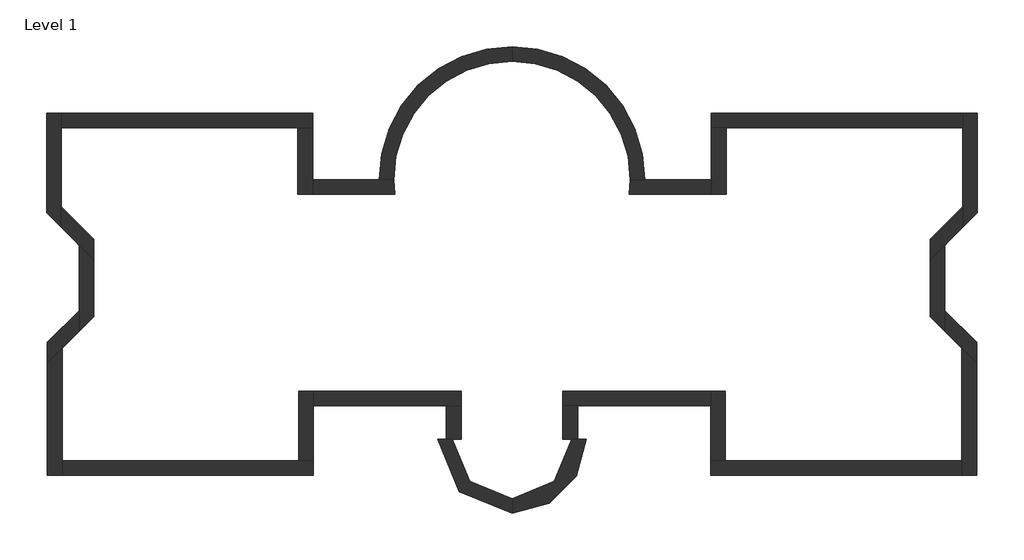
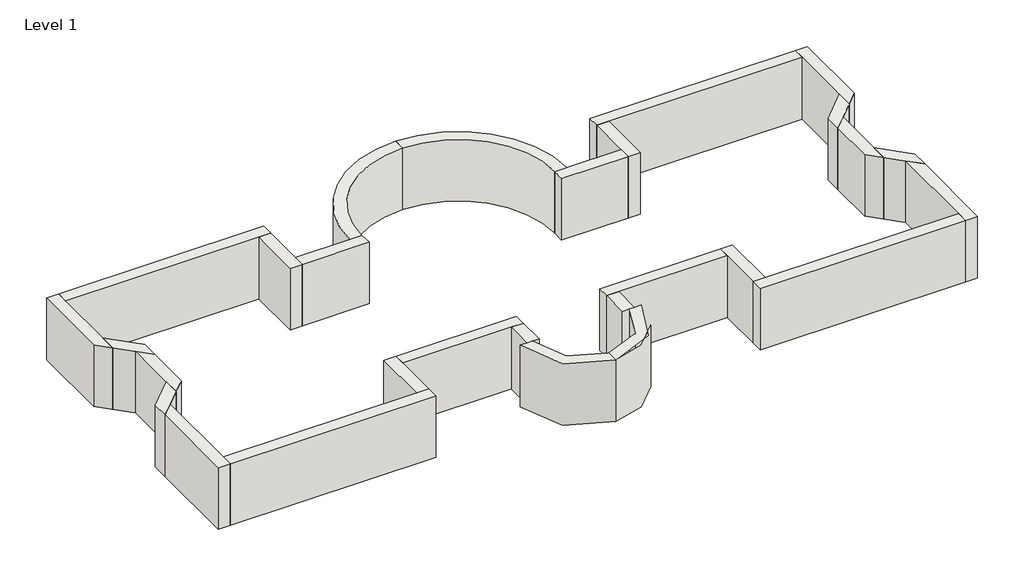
# One storey: 28 walls.
"""IFC4 building model written with IfcOpenShell, lengths in millimetres."""

from ifc_helpers import new_model, si_unit, point, frame, frame_2d, origin, origin_with_axes, place, context, project, spatial, polyline, circle_curve, trimmed, segment, composite_curve, outline, extrude, faceted_brep, element, save
from ifc_brep_helpers import plane_surface, cylinder_surface, revolved_surface, advanced_brep

model = new_model("IFC4")

# Units and contexts
model_context = context("Model", 3, world=origin())
ifc_project = project(units=[si_unit("LENGTHUNIT", "METRE", prefix="MILLI")], contexts=[model_context])

# Site, building, storey
site = spatial("IfcSite", under=ifc_project)
building = spatial("IfcBuilding", under=site)
storey = spatial("IfcBuildingStorey", under=building, Name="Level 1", Elevation=0.0)

# Walls
placement = place(None, origin())
element("IfcWall", 1, ObjectType="Exterior - CMU Insulated", at=placement, inside=storey, context=model_context, shape_type="Brep", body=[
    faceted_brep([(-20580.7092451, 2236.0480942, 0.0), (-20580.7092451, 3187.955243, 0.0), (-20580.7092451, 6808.0480942, 0.0), (-20580.7092451, 7481.1480942, 0.0), (-20580.7092451, 7481.1480942, 3657.6), (-20580.7092451, 6808.0480942, 3657.6), (-20580.7092451, 3187.955243, 3657.6), (-20580.7092451, 2236.0480942, 3657.6), (-21253.8092451, 2909.1480942, 0.0), (-21253.8092451, 2909.1480942, 3657.6), (-21253.8092451, 7481.1480942, 3657.6), (-21253.8092451, 7481.1480942, 0.0)], [[[0, 1, 2, 3, 4, 5, 6, 7]], [[8, 9, 10, 11]], [[3, 2, 1, 0, 8, 11]], [[7, 6, 5, 4, 10, 9]], [[4, 3, 11, 10]], [[0, 7, 9, 8]]]),
])
element("IfcWall", 2, ObjectType="Exterior - CMU Insulated", at=placement, inside=storey, context=model_context, shape_type="Brep", body=[
    faceted_brep([(-20580.7092451, 6808.0480942, 0.0), (-9734.9092451, 6808.0480942, 0.0), (-9061.8092451, 6808.0480942, 0.0), (-9061.8092451, 6808.0480942, 3657.6), (-9734.9092451, 6808.0480942, 3657.6), (-20580.7092451, 6808.0480942, 3657.6), (-20580.7092451, 7481.1480942, 0.0), (-20580.7092451, 7481.1480942, 3657.6), (-9061.8092451, 7481.1480942, 3657.6), (-9061.8092451, 7481.1480942, 0.0)], [[[0, 1, 2, 3, 4, 5]], [[6, 7, 8, 9]], [[2, 1, 0, 6, 9]], [[5, 4, 3, 8, 7]], [[3, 2, 9, 8]], [[0, 5, 7, 6]]]),
])
element("IfcWall", 3, ObjectType="Exterior - CMU Insulated", at=placement, inside=storey, context=model_context, shape_type="Brep", body=[
    faceted_brep([(-9734.9092451, 6808.0480942, 0.0), (-9734.9092451, 3760.0480942, 0.0), (-9734.9092451, 3760.0480942, 3657.6), (-9734.9092451, 6808.0480942, 3657.6), (-9061.8092451, 6808.0480942, 0.0), (-9061.8092451, 6808.0480942, 3657.6), (-9061.8092451, 4433.1480942, 3657.6), (-9061.8092451, 3760.0480942, 3657.6), (-9061.8092451, 3760.0480942, 0.0), (-9061.8092451, 4433.1480942, 0.0)], [[[0, 1, 2, 3]], [[4, 5, 6, 7, 8, 9]], [[1, 0, 4, 9, 8]], [[3, 2, 7, 6, 5]], [[2, 1, 8, 7]], [[0, 3, 5, 4]]]),
])
element("IfcWall", 4, ObjectType="Exterior - CMU Insulated", at=placement, inside=storey, context=model_context, shape_type="AdvancedBrep", body=[
    advanced_brep(
    [(-9061.8092451, 3760.0480942, 0.0), (-5298.7739169, 3760.0480942, 0.0), (-5298.7739169, 3760.0480942, 3657.6), (-9061.8092451, 3760.0480942, 3657.6), (-9061.8092451, 4433.1480942, 0.0), (-9061.8092451, 4433.1480942, 3657.6), (-6013.8092451, 4433.1480942, 3657.6), (-5340.7092451, 4433.1480942, 3657.6), (-5340.7092451, 4433.1480942, 0.0), (-6013.8092451, 4433.1480942, 0.0)],
    [
        (0, 1),
        (1, 2),
        (2, 3),
        (3, 0),
        (4, 5),
        (5, 6),
        (6, 7),
        (7, 8),
        (8, 9),
        (9, 4),
        (0, 4),
        (8, 1, circle_curve(frame((82.1907549, 4433.1480942, 0.0), z_axis=(0.0, 0.0, 1.0), x_axis=(1.0, 0.0, 0.0)), 5422.9)),
        (2, 7, circle_curve(frame((82.1907549, 4433.1480942, 3657.6), z_axis=(0.0, 0.0, -1.0), x_axis=(1.0, 0.0, 0.0)), 5422.9)),
        (5, 3),
    ],
    [
        plane_surface(frame((-9061.8092451, 3760.0480942, 0.0), z_axis=(0.0, -1.0, 0.0), x_axis=(1.0, 0.0, 0.0))),
        plane_surface(frame((-9061.8092451, 4433.1480942, 0.0), z_axis=(0.0, 1.0, 0.0), x_axis=(-1.0, 0.0, 0.0))),
        plane_surface(frame((-9398.3592451, 3760.0480942, 0.0), z_axis=(0.0, 0.0, -1.0), x_axis=(0.0, 1.0, 0.0))),
        plane_surface(frame((-5667.4177883, 3760.0480942, 3657.6), z_axis=(0.0, 0.0, 1.0), x_axis=(0.0, 1.0, 0.0))),
        revolved_surface(polyline([(5505.090754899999, 4433.1480942, 0.0), (5505.090754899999, 4433.1480942, 3657.6)]), (82.1907549, 4433.1480942, 0.0), (0.0, 0.0, -1.0)),
        plane_surface(frame((-9061.8092451, 7481.1480942, 0.0), z_axis=(-1.0, 0.0, 0.0), x_axis=(0.0, 1.0, 0.0))),
    ],
    [
        (0, [[1, 2, 3, 4]]),
        (1, [[5, 6, 7, 8, 9, 10]]),
        (2, [[-1, 11, -10, -9, 12]]),
        (3, [[-3, 13, -7, -6, 14]]),
        (4, [[-2, -12, -8, -13]]),
        (5, [[-4, -14, -5, -11]]),
    ],
),
])
element("IfcWall", 5, ObjectType="Exterior - CMU Insulated", at=placement, inside=storey, context=model_context, shape_type="SweptSolid", body=[
    extrude(outline(composite_curve([segment(polyline([(82.1907549, 10529.1480942), (82.1907549, 9856.0480942)]), True, "CONTINUOUS"), segment(trimmed(circle_curve(frame_2d((82.1907549, 4433.1480942)), 5422.9), [point((82.1907549, 9856.0480942))], [point((-5340.7092451, 4433.1480942))], True, "CARTESIAN"), True, "CONTINUOUS"), segment(polyline([(-5340.7092451, 4433.1480942), (-6013.8092451, 4433.1480942)]), True, "CONTINUOUS"), segment(trimmed(circle_curve(frame_2d((82.1907549, 4433.1480942)), 6096.0), [point((-6013.8092451, 4433.1480942))], [point((82.1907549, 10529.1480942))], False, "CARTESIAN"), True, "CONTINUOUS")], self_intersect=False)), origin_with_axes(), (0.0, 0.0, 1.0), 3657.6),
])
element("IfcWall", 6, ObjectType="Exterior - CMU Insulated", at=placement, inside=storey, context=model_context, shape_type="Brep", body=[
    faceted_brep([(-19086.4998817, 1693.7458797, 0.0), (-20580.7092451, 3187.955243, 0.0), (-20580.7092451, 3187.955243, 3657.6), (-19086.4998817, 1693.7458797, 3657.6), (-19086.4998817, 741.8387309, 0.0), (-19086.4998817, 741.8387309, 3657.6), (-19759.5998817, 1414.9387309, 3657.6), (-20580.7092451, 2236.0480942, 3657.6), (-20580.7092451, 2236.0480942, 0.0), (-19759.5998817, 1414.9387309, 0.0)], [[[0, 1, 2, 3]], [[4, 5, 6, 7, 8, 9]], [[1, 0, 4, 9, 8]], [[3, 2, 7, 6, 5]], [[0, 3, 5, 4]], [[2, 1, 8, 7]]]),
])
element("IfcWall", 7, ObjectType="Exterior - CMU Insulated", at=placement, inside=storey, context=model_context, shape_type="Brep", body=[
    faceted_brep([(-19086.4998817, -1854.6603473, 0.0), (-19086.4998817, 741.8387309, 0.0), (-19086.4998817, 741.8387309, 3657.6), (-19086.4998817, -1854.6603473, 3657.6), (-19759.5998817, -2527.7603473, 0.0), (-19759.5998817, -2527.7603473, 3657.6), (-19759.5998817, -1575.8531985, 3657.6), (-19759.5998817, 1414.9387309, 3657.6), (-19759.5998817, 1414.9387309, 0.0), (-19759.5998817, -1575.8531985, 0.0)], [[[0, 1, 2, 3]], [[4, 5, 6, 7, 8, 9]], [[1, 0, 4, 9, 8]], [[3, 2, 7, 6, 5]], [[0, 3, 5, 4]], [[2, 1, 8, 7]]]),
])
element("IfcWall", 8, ObjectType="Exterior - CMU Insulated", at=placement, inside=storey, context=model_context, shape_type="Brep", body=[
    faceted_brep([(-19759.5998817, -1575.8531985, 0.0), (-21213.3570304, -3029.6103471, 0.0), (-21213.3570304, -3029.6103471, 3657.6), (-19759.5998817, -1575.8531985, 3657.6), (-19759.5998817, -2527.7603473, 0.0), (-19759.5998817, -2527.7603473, 3657.6), (-20540.2570304, -3308.4174959, 3657.6), (-21213.3570304, -3981.5174959, 3657.6), (-21213.3570304, -3981.5174959, 0.0), (-20540.2570304, -3308.4174959, 0.0)], [[[0, 1, 2, 3]], [[4, 5, 6, 7, 8, 9]], [[1, 0, 4, 9, 8]], [[3, 2, 7, 6, 5]], [[2, 1, 8, 7]], [[0, 3, 5, 4]]]),
])
element("IfcWall", 9, ObjectType="Exterior - CMU Insulated", at=placement, inside=storey, context=model_context, shape_type="Brep", body=[
    faceted_brep([(-20540.2570304, -9125.6103471, 0.0), (-20540.2570304, -8452.5103471, 0.0), (-20540.2570304, -3308.4174959, 0.0), (-20540.2570304, -3308.4174959, 3657.6), (-20540.2570304, -8452.5103471, 3657.6), (-20540.2570304, -9125.6103471, 3657.6), (-21213.3570304, -9125.6103471, 0.0), (-21213.3570304, -9125.6103471, 3657.6), (-21213.3570304, -3981.5174959, 3657.6), (-21213.3570304, -3981.5174959, 0.0)], [[[0, 1, 2, 3, 4, 5]], [[6, 7, 8, 9]], [[2, 1, 0, 6, 9]], [[5, 4, 3, 8, 7]], [[0, 5, 7, 6]], [[3, 2, 9, 8]]]),
])
element("IfcWall", 10, ObjectType="Exterior - CMU Insulated", at=placement, inside=storey, context=model_context, shape_type="Brep", body=[
    faceted_brep([(-9021.3570304, -8452.5103471, 0.0), (-9694.4570304, -8452.5103471, 0.0), (-20540.2570304, -8452.5103471, 0.0), (-20540.2570304, -8452.5103471, 3657.6), (-9694.4570304, -8452.5103471, 3657.6), (-9021.3570304, -8452.5103471, 3657.6), (-9021.3570304, -9125.6103471, 0.0), (-9021.3570304, -9125.6103471, 3657.6), (-20540.2570304, -9125.6103471, 3657.6), (-20540.2570304, -9125.6103471, 0.0)], [[[0, 1, 2, 3, 4, 5]], [[6, 7, 8, 9]], [[2, 1, 0, 6, 9]], [[5, 4, 3, 8, 7]], [[0, 5, 7, 6]], [[3, 2, 9, 8]]]),
])
element("IfcWall", 11, ObjectType="Exterior - CMU Insulated", at=placement, inside=storey, context=model_context, shape_type="Brep", body=[
    faceted_brep([(-9694.4570304, -5266.3978471, 0.0), (-9694.4570304, -8452.5103471, 0.0), (-9694.4570304, -8452.5103471, 3657.6), (-9694.4570304, -5266.3978471, 3657.6), (-9021.3570304, -5266.3978471, 0.0), (-9021.3570304, -5266.3978471, 3657.6), (-9021.3570304, -5939.4978471, 3657.6), (-9021.3570304, -8452.5103471, 3657.6), (-9021.3570304, -8452.5103471, 0.0), (-9021.3570304, -5939.4978471, 0.0)], [[[0, 1, 2, 3]], [[4, 5, 6, 7, 8, 9]], [[1, 0, 4, 9, 8]], [[3, 2, 7, 6, 5]], [[0, 3, 5, 4]], [[2, 1, 8, 7]]]),
])
element("IfcWall", 12, ObjectType="Exterior - CMU Insulated", at=placement, inside=storey, context=model_context, shape_type="Brep", body=[
    faceted_brep([(-2252.2570304, -5266.3978471, 0.0), (-9021.3570304, -5266.3978471, 0.0), (-9021.3570304, -5266.3978471, 3657.6), (-2252.2570304, -5266.3978471, 3657.6), (-2252.2570304, -5939.4978471, 0.0), (-2252.2570304, -5939.4978471, 3657.6), (-2925.3570304, -5939.4978471, 3657.6), (-9021.3570304, -5939.4978471, 3657.6), (-9021.3570304, -5939.4978471, 0.0), (-2925.3570304, -5939.4978471, 0.0)], [[[0, 1, 2, 3]], [[4, 5, 6, 7, 8, 9]], [[1, 0, 4, 9, 8]], [[3, 2, 7, 6, 5]], [[0, 3, 5, 4]], [[2, 1, 8, 7]]]),
])
element("IfcWall", 13, ObjectType="Exterior - CMU Insulated", at=placement, inside=storey, context=model_context, shape_type="Brep", body=[
    faceted_brep([(-2252.2570304, -7463.4978471, 0.0), (-2252.2570304, -5939.4978471, 0.0), (-2252.2570304, -5939.4978471, 3657.6), (-2252.2570304, -7463.4978471, 3657.6), (-2925.3570304, -7463.4978471, 0.0), (-2925.3570304, -7463.4978471, 3657.6), (-2925.3570304, -5939.4978471, 3657.6), (-2925.3570304, -5939.4978471, 0.0), (-2649.1320304, -7463.4978471, 0.0), (-2649.1320304, -7463.4978471, 3657.6)], [[[0, 1, 2, 3]], [[4, 5, 6, 7]], [[1, 0, 8, 4, 7]], [[3, 2, 6, 5, 9]], [[0, 3, 9, 5, 4, 8]], [[2, 1, 7, 6]]]),
])
element("IfcWall", 14, ObjectType="Exterior - CMU Insulated", at=placement, inside=storey, context=model_context, shape_type="AdvancedBrep", body=[
    advanced_brep(
    [(82.1907549, -10194.8206324, 3657.6), (-2649.1320304, -7463.4978471, 3657.6), (-2925.3570304, -7463.4978471, 3657.6), (-3322.2320304, -7463.4978471, 3657.6), (82.1907549, -10867.9206324, 3657.6), (82.1907549, -10194.8206324, 0.0), (82.1907549, -10867.9206324, 0.0), (-3322.2320304, -7463.4978471, 0.0), (-2925.3570304, -7463.4978471, 0.0), (-2649.1320304, -7463.4978471, 0.0)],
    [
        (0, 1, circle_curve(frame((82.1907549, -7463.4978471, 3657.6), z_axis=(0.0, 0.0, -1.0), x_axis=(1.0, 0.0, 0.0)), 2731.3227853)),
        (1, 2),
        (2, 3),
        (3, 4, circle_curve(frame((82.1907549, -7463.4978471, 3657.6), z_axis=(0.0, 0.0, 1.0), x_axis=(1.0, 0.0, 0.0)), 3404.4227853)),
        (4, 0),
        (5, 6),
        (6, 7, circle_curve(frame((82.1907549, -7463.4978471, 0.0), z_axis=(0.0, 0.0, -1.0), x_axis=(1.0, 0.0, 0.0)), 3404.4227853)),
        (7, 8),
        (8, 9),
        (9, 5, circle_curve(frame((82.1907549, -7463.4978471, 0.0), z_axis=(0.0, 0.0, 1.0), x_axis=(1.0, 0.0, 0.0)), 2731.3227853)),
        (0, 5),
        (9, 1),
        (7, 3),
        (6, 4),
    ],
    [
        plane_surface(frame((2813.5135403, -7463.4978471, 3657.6), z_axis=(0.0, 0.0, 1.0), x_axis=(0.0, -1.0, 0.0))),
        plane_surface(frame((2813.5135403, -7463.4978471, 0.0), z_axis=(0.0, 0.0, -1.0), x_axis=(0.0, 1.0, 0.0))),
        revolved_surface(polyline([(2813.5135401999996, -7463.4978471, 0.0), (2813.5135401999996, -7463.4978471, 3657.6)]), (82.1907549, -7463.4978471, 0.0), (0.0, 0.0, -1.0)),
        plane_surface(frame((-2649.1320304, -7463.4978471, 3657.6), z_axis=(0.0, 1.0, 0.0), x_axis=(0.0, 0.0, -1.0))),
        cylinder_surface(frame((82.1907549, -7463.4978471, 0.0), z_axis=(0.0, 0.0, 1.0), x_axis=(1.0, 0.0, 0.0)), 3404.4227853),
        plane_surface(frame((82.1907549, -10867.9206324, 3657.6), z_axis=(1.0, 0.0, 0.0), x_axis=(0.0, 0.0, -1.0))),
    ],
    [
        (0, [[1, 2, 3, 4, 5]]),
        (1, [[6, 7, 8, 9, 10]]),
        (2, [[-1, 11, -10, 12]]),
        (3, [[-3, -2, -12, -9, -8, 13]]),
        (4, [[-4, -13, -7, 14]]),
        (5, [[-5, -14, -6, -11]]),
    ],
),
])
element("IfcWall", 15, ObjectType="Exterior - CMU Insulated", at=placement, inside=storey, context=model_context, shape_type="Brep", body=[
    faceted_brep([(21418.1907549, 2909.1480942, 0.0), (21418.1907549, 7481.1480942, 0.0), (21418.1907549, 7481.1480942, 3657.6), (21418.1907549, 2909.1480942, 3657.6), (20745.0907549, 2236.0480942, 0.0), (20745.0907549, 2236.0480942, 3657.6), (20745.0907549, 3187.955243, 3657.6), (20745.0907549, 6808.0480942, 3657.6), (20745.0907549, 7481.1480942, 3657.6), (20745.0907549, 7481.1480942, 0.0), (20745.0907549, 6808.0480942, 0.0), (20745.0907549, 3187.955243, 0.0)], [[[0, 1, 2, 3]], [[4, 5, 6, 7, 8, 9, 10, 11]], [[1, 0, 4, 11, 10, 9]], [[3, 2, 8, 7, 6, 5]], [[2, 1, 9, 8]], [[0, 3, 5, 4]]]),
])
element("IfcWall", 16, ObjectType="Exterior - CMU Insulated", at=placement, inside=storey, context=model_context, shape_type="Brep", body=[
    faceted_brep([(20745.0907549, 7481.1480942, 0.0), (9226.1907549, 7481.1480942, 0.0), (9226.1907549, 7481.1480942, 3657.6), (20745.0907549, 7481.1480942, 3657.6), (20745.0907549, 6808.0480942, 0.0), (20745.0907549, 6808.0480942, 3657.6), (9899.2907549, 6808.0480942, 3657.6), (9226.1907549, 6808.0480942, 3657.6), (9226.1907549, 6808.0480942, 0.0), (9899.2907549, 6808.0480942, 0.0)], [[[0, 1, 2, 3]], [[4, 5, 6, 7, 8, 9]], [[1, 0, 4, 9, 8]], [[3, 2, 7, 6, 5]], [[2, 1, 8, 7]], [[0, 3, 5, 4]]]),
])
element("IfcWall", 17, ObjectType="Exterior - CMU Insulated", at=placement, inside=storey, context=model_context, shape_type="Brep", body=[
    faceted_brep([(9226.1907549, 6808.0480942, 0.0), (9226.1907549, 4433.1480942, 0.0), (9226.1907549, 3760.0480942, 0.0), (9226.1907549, 3760.0480942, 3657.6), (9226.1907549, 4433.1480942, 3657.6), (9226.1907549, 6808.0480942, 3657.6), (9899.2907549, 6808.0480942, 0.0), (9899.2907549, 6808.0480942, 3657.6), (9899.2907549, 3760.0480942, 3657.6), (9899.2907549, 3760.0480942, 0.0)], [[[0, 1, 2, 3, 4, 5]], [[6, 7, 8, 9]], [[2, 1, 0, 6, 9]], [[5, 4, 3, 8, 7]], [[3, 2, 9, 8]], [[0, 5, 7, 6]]]),
])
element("IfcWall", 18, ObjectType="Exterior - CMU Insulated", at=placement, inside=storey, context=model_context, shape_type="AdvancedBrep", body=[
    advanced_brep(
    [(9226.1907549, 4433.1480942, 0.0), (6178.1907549, 4433.1480942, 0.0), (5505.0907549, 4433.1480942, 0.0), (5505.0907549, 4433.1480942, 3657.6), (6178.1907549, 4433.1480942, 3657.6), (9226.1907549, 4433.1480942, 3657.6), (9226.1907549, 3760.0480942, 0.0), (9226.1907549, 3760.0480942, 3657.6), (5463.1554268, 3760.0480942, 3657.6), (5463.1554268, 3760.0480942, 0.0)],
    [
        (0, 1),
        (1, 2),
        (2, 3),
        (3, 4),
        (4, 5),
        (5, 0),
        (6, 7),
        (7, 8),
        (8, 9),
        (9, 6),
        (0, 6),
        (9, 2, circle_curve(frame((82.1907549, 4433.1480942, 0.0), z_axis=(0.0, 0.0, 1.0), x_axis=(-1.0, 0.0, 0.0)), 5422.9)),
        (3, 8, circle_curve(frame((82.1907549, 4433.1480942, 3657.6), z_axis=(0.0, 0.0, -1.0), x_axis=(-1.0, 0.0, 0.0)), 5422.9)),
        (7, 5),
    ],
    [
        plane_surface(frame((9226.1907549, 4433.1480942, 0.0), z_axis=(0.0, 1.0, 0.0), x_axis=(-1.0, 0.0, 0.0))),
        plane_surface(frame((9226.1907549, 3760.0480942, 0.0), z_axis=(0.0, -1.0, 0.0), x_axis=(1.0, 0.0, 0.0))),
        plane_surface(frame((9562.7407549, 4433.1480942, 0.0), z_axis=(0.0, 0.0, -1.0), x_axis=(0.0, -1.0, 0.0))),
        plane_surface(frame((5831.7992981, 4433.1480942, 3657.6), z_axis=(0.0, 0.0, 1.0), x_axis=(0.0, -1.0, 0.0))),
        revolved_surface(polyline([(-5340.7092451, 4433.1480942, 0.0), (-5340.7092451, 4433.1480942, 3657.6)]), (82.1907549, 4433.1480942, 0.0), (0.0, 0.0, -1.0)),
        plane_surface(frame((9226.1907549, 7481.1480942, 0.0), z_axis=(1.0, 0.0, 0.0), x_axis=(0.0, -1.0, 0.0))),
    ],
    [
        (0, [[1, 2, 3, 4, 5, 6]]),
        (1, [[7, 8, 9, 10]]),
        (2, [[-2, -1, 11, -10, 12]]),
        (3, [[-5, -4, 13, -8, 14]]),
        (4, [[-3, -12, -9, -13]]),
        (5, [[-6, -14, -7, -11]]),
    ],
),
])
element("IfcWall", 19, ObjectType="Exterior - CMU Insulated", at=placement, inside=storey, context=model_context, shape_type="SweptSolid", body=[
    extrude(outline(composite_curve([segment(polyline([(82.1907549, 9856.0480942), (82.1907549, 10529.1480942)]), True, "CONTINUOUS"), segment(trimmed(circle_curve(frame_2d((82.1907549, 4433.1480942)), 6096.0), [point((82.1907549, 10529.1480942))], [point((6178.1907549, 4433.1480942))], False, "CARTESIAN"), True, "CONTINUOUS"), segment(polyline([(6178.1907549, 4433.1480942), (5505.0907549, 4433.1480942)]), True, "CONTINUOUS"), segment(trimmed(circle_curve(frame_2d((82.1907549, 4433.1480942)), 5422.9), [point((5505.0907549, 4433.1480942))], [point((82.1907549, 9856.0480942))], True, "CARTESIAN"), True, "CONTINUOUS")], self_intersect=False)), origin_with_axes(), (0.0, 0.0, 1.0), 3657.6),
])
element("IfcWall", 20, ObjectType="Exterior - CMU Insulated", at=placement, inside=storey, context=model_context, shape_type="Brep", body=[
    faceted_brep([(19250.8813916, 741.8387309, 0.0), (19923.9813916, 1414.9387309, 0.0), (20745.0907549, 2236.0480942, 0.0), (20745.0907549, 2236.0480942, 3657.6), (19923.9813916, 1414.9387309, 3657.6), (19250.8813916, 741.8387309, 3657.6), (19250.8813916, 1693.7458797, 0.0), (19250.8813916, 1693.7458797, 3657.6), (20745.0907549, 3187.955243, 3657.6), (20745.0907549, 3187.955243, 0.0)], [[[0, 1, 2, 3, 4, 5]], [[6, 7, 8, 9]], [[2, 1, 0, 6, 9]], [[5, 4, 3, 8, 7]], [[0, 5, 7, 6]], [[3, 2, 9, 8]]]),
])
element("IfcWall", 21, ObjectType="Exterior - CMU Insulated", at=placement, inside=storey, context=model_context, shape_type="Brep", body=[
    faceted_brep([(19923.9813916, -2527.7603473, 0.0), (19923.9813916, -1575.8531985, 0.0), (19923.9813916, 1414.9387309, 0.0), (19923.9813916, 1414.9387309, 3657.6), (19923.9813916, -1575.8531985, 3657.6), (19923.9813916, -2527.7603473, 3657.6), (19250.8813916, -1854.6603473, 0.0), (19250.8813916, -1854.6603473, 3657.6), (19250.8813916, 741.8387309, 3657.6), (19250.8813916, 741.8387309, 0.0)], [[[0, 1, 2, 3, 4, 5]], [[6, 7, 8, 9]], [[2, 1, 0, 6, 9]], [[5, 4, 3, 8, 7]], [[0, 5, 7, 6]], [[3, 2, 9, 8]]]),
])
element("IfcWall", 22, ObjectType="Exterior - CMU Insulated", at=placement, inside=storey, context=model_context, shape_type="Brep", body=[
    faceted_brep([(19923.9813916, -2527.7603473, 0.0), (20704.6385403, -3308.4174959, 0.0), (21377.7385403, -3981.5174959, 0.0), (21377.7385403, -3981.5174959, 3657.6), (20704.6385403, -3308.4174959, 3657.6), (19923.9813916, -2527.7603473, 3657.6), (19923.9813916, -1575.8531985, 0.0), (19923.9813916, -1575.8531985, 3657.6), (21377.7385403, -3029.6103471, 3657.6), (21377.7385403, -3029.6103471, 0.0)], [[[0, 1, 2, 3, 4, 5]], [[6, 7, 8, 9]], [[2, 1, 0, 6, 9]], [[5, 4, 3, 8, 7]], [[3, 2, 9, 8]], [[0, 5, 7, 6]]]),
])
element("IfcWall", 23, ObjectType="Exterior - CMU Insulated", at=placement, inside=storey, context=model_context, shape_type="Brep", body=[
    faceted_brep([(21377.7385403, -9125.6103471, 0.0), (21377.7385403, -3981.5174959, 0.0), (21377.7385403, -3981.5174959, 3657.6), (21377.7385403, -9125.6103471, 3657.6), (20704.6385403, -9125.6103471, 0.0), (20704.6385403, -9125.6103471, 3657.6), (20704.6385403, -8452.5103471, 3657.6), (20704.6385403, -3308.4174959, 3657.6), (20704.6385403, -3308.4174959, 0.0), (20704.6385403, -8452.5103471, 0.0)], [[[0, 1, 2, 3]], [[4, 5, 6, 7, 8, 9]], [[1, 0, 4, 9, 8]], [[3, 2, 7, 6, 5]], [[0, 3, 5, 4]], [[2, 1, 8, 7]]]),
])
element("IfcWall", 24, ObjectType="Exterior - CMU Insulated", at=placement, inside=storey, context=model_context, shape_type="Brep", body=[
    faceted_brep([(9185.7385403, -9125.6103471, 0.0), (20704.6385403, -9125.6103471, 0.0), (20704.6385403, -9125.6103471, 3657.6), (9185.7385403, -9125.6103471, 3657.6), (9185.7385403, -8452.5103471, 0.0), (9185.7385403, -8452.5103471, 3657.6), (9858.8385403, -8452.5103471, 3657.6), (20704.6385403, -8452.5103471, 3657.6), (20704.6385403, -8452.5103471, 0.0), (9858.8385403, -8452.5103471, 0.0)], [[[0, 1, 2, 3]], [[4, 5, 6, 7, 8, 9]], [[1, 0, 4, 9, 8]], [[3, 2, 7, 6, 5]], [[0, 3, 5, 4]], [[2, 1, 8, 7]]]),
])
element("IfcWall", 25, ObjectType="Exterior - CMU Insulated", at=placement, inside=storey, context=model_context, shape_type="Brep", body=[
    faceted_brep([(9185.7385403, -5266.3978471, 0.0), (9185.7385403, -5939.4978471, 0.0), (9185.7385403, -8452.5103471, 0.0), (9185.7385403, -8452.5103471, 3657.6), (9185.7385403, -5939.4978471, 3657.6), (9185.7385403, -5266.3978471, 3657.6), (9858.8385403, -5266.3978471, 0.0), (9858.8385403, -5266.3978471, 3657.6), (9858.8385403, -8452.5103471, 3657.6), (9858.8385403, -8452.5103471, 0.0)], [[[0, 1, 2, 3, 4, 5]], [[6, 7, 8, 9]], [[2, 1, 0, 6, 9]], [[5, 4, 3, 8, 7]], [[0, 5, 7, 6]], [[3, 2, 9, 8]]]),
])
element("IfcWall", 26, ObjectType="Exterior - CMU Insulated", at=placement, inside=storey, context=model_context, shape_type="Brep", body=[
    faceted_brep([(2416.6385403, -5939.4978471, 0.0), (3089.7385403, -5939.4978471, 0.0), (9185.7385403, -5939.4978471, 0.0), (9185.7385403, -5939.4978471, 3657.6), (3089.7385403, -5939.4978471, 3657.6), (2416.6385403, -5939.4978471, 3657.6), (2416.6385403, -5266.3978471, 0.0), (2416.6385403, -5266.3978471, 3657.6), (9185.7385403, -5266.3978471, 3657.6), (9185.7385403, -5266.3978471, 0.0)], [[[0, 1, 2, 3, 4, 5]], [[6, 7, 8, 9]], [[2, 1, 0, 6, 9]], [[5, 4, 3, 8, 7]], [[0, 5, 7, 6]], [[3, 2, 9, 8]]]),
])
element("IfcWall", 27, ObjectType="Exterior - CMU Insulated", at=placement, inside=storey, context=model_context, shape_type="Brep", body=[
    faceted_brep([(3089.7385403, -7463.4978471, 0.0), (3089.7385403, -5939.4978471, 0.0), (3089.7385403, -5939.4978471, 3657.6), (3089.7385403, -7463.4978471, 3657.6), (2416.6385403, -7463.4978471, 0.0), (2416.6385403, -7463.4978471, 3657.6), (2416.6385403, -5939.4978471, 3657.6), (2416.6385403, -5939.4978471, 0.0), (2813.5135403, -7463.4978471, 0.0), (2813.5135403, -7463.4978471, 3657.6)], [[[0, 1, 2, 3]], [[4, 5, 6, 7]], [[1, 0, 8, 4, 7]], [[3, 2, 6, 5, 9]], [[0, 3, 9, 5, 4, 8]], [[2, 1, 7, 6]]]),
])
element("IfcWall", 28, ObjectType="Exterior - CMU Insulated", at=placement, inside=storey, context=model_context, shape_type="AdvancedBrep", body=[
    advanced_brep(
    [(82.1907549, -10867.9206324, 3657.6), (3486.6135403, -7463.4978471, 3657.6), (3089.7385403, -7463.4978471, 3657.6), (2813.5135403, -7463.4978471, 3657.6), (82.1907549, -10194.8206324, 3657.6), (82.1907549, -10867.9206324, 0.0), (82.1907549, -10194.8206324, 0.0), (2813.5135403, -7463.4978471, 0.0), (3089.7385403, -7463.4978471, 0.0), (3486.6135403, -7463.4978471, 0.0)],
    [
        (0, 1, circle_curve(frame((82.1907549, -7463.4978471, 3657.6), z_axis=(0.0, 0.0, 1.0), x_axis=(-1.0, 0.0, 0.0)), 3404.4227853)),
        (1, 2),
        (2, 3),
        (3, 4, circle_curve(frame((82.1907549, -7463.4978471, 3657.6), z_axis=(0.0, 0.0, -1.0), x_axis=(-1.0, 0.0, 0.0)), 2731.3227853)),
        (4, 0),
        (5, 6),
        (6, 7, circle_curve(frame((82.1907549, -7463.4978471, 0.0), z_axis=(0.0, 0.0, 1.0), x_axis=(-1.0, 0.0, 0.0)), 2731.3227853)),
        (7, 8),
        (8, 9),
        (9, 5, circle_curve(frame((82.1907549, -7463.4978471, 0.0), z_axis=(0.0, 0.0, -1.0), x_axis=(-1.0, 0.0, 0.0)), 3404.4227853)),
        (0, 5),
        (9, 1),
        (7, 3),
        (6, 4),
    ],
    [
        plane_surface(frame((-3322.2320304, -7463.4978471, 3657.6), z_axis=(0.0, 0.0, 1.0), x_axis=(0.0, -1.0, 0.0))),
        plane_surface(frame((-3322.2320304, -7463.4978471, 0.0), z_axis=(0.0, 0.0, -1.0), x_axis=(0.0, 1.0, 0.0))),
        cylinder_surface(frame((82.1907549, -7463.4978471, 0.0), z_axis=(0.0, 0.0, 1.0), x_axis=(-1.0, 0.0, 0.0)), 3404.4227853),
        plane_surface(frame((3486.6135403, -7463.4978471, 3657.6), z_axis=(0.0, 1.0, 0.0), x_axis=(0.0, 0.0, -1.0))),
        revolved_surface(polyline([(-2649.1320304, -7463.4978471, 0.0), (-2649.1320304, -7463.4978471, 3657.6)]), (82.1907549, -7463.4978471, 0.0), (0.0, 0.0, -1.0)),
        plane_surface(frame((82.1907549, -10194.8206324, 3657.6), z_axis=(-1.0, 0.0, 0.0), x_axis=(0.0, 0.0, -1.0))),
    ],
    [
        (0, [[1, 2, 3, 4, 5]]),
        (1, [[6, 7, 8, 9, 10]]),
        (2, [[-1, 11, -10, 12]]),
        (3, [[-3, -2, -12, -9, -8, 13]]),
        (4, [[-4, -13, -7, 14]]),
        (5, [[-5, -14, -6, -11]]),
    ],
),
])

save(model, "model.ifc")
